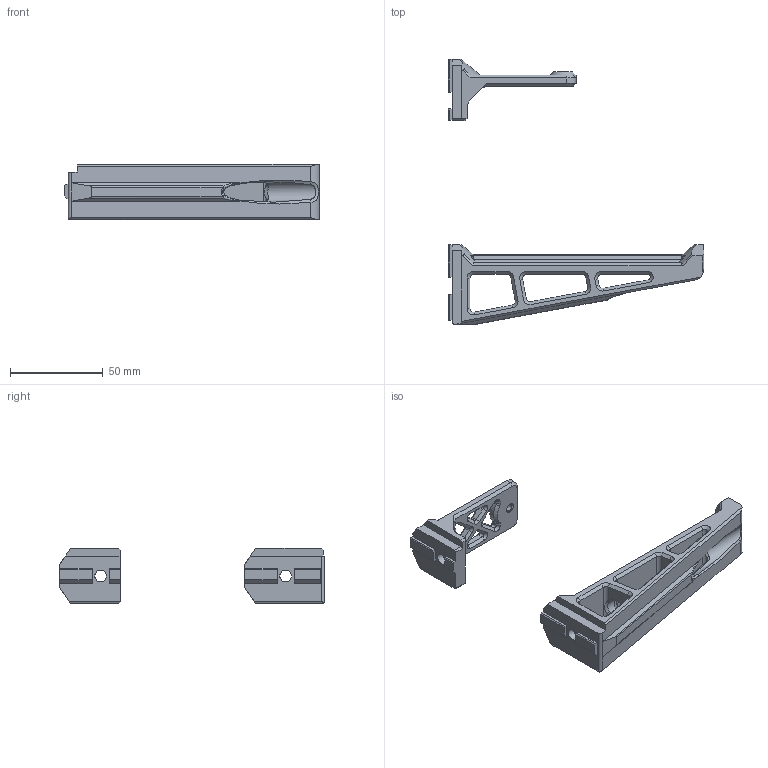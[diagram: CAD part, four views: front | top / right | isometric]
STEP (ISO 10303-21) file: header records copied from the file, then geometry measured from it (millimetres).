
FILE_DESCRIPTION(/* description */ (''),/* implementation_level */ '2;1');
FILE_NAME(/* name */ 'enclosure2_spool_holder_5mm 111mm v2.step',/* time_stamp */ '2023-05-26T00:07:37+02:00',/* author */ (''),/* organization */ (''),/* preprocessor_version */ 'ST-DEVELOPER v19.2',/* originating_system */ 'Autodesk Translation Framework v12.4.0.73',/* authorisation */ '');
FILE_SCHEMA (('AUTOMOTIVE_DESIGN { 1 0 10303 214 3 1 1 }'));
Length unit declared in the file: millimetre
Products named in the file (1): enclosure2_spool_holder_5mm 111mm
Bounding box: 138 x 143.2 x 30 mm (x, y, z)
Volume: 77020.8 mm3; surface area: 28423.8 mm2
Topology: 2 solids, 2 shells, 341 faces, 882 edges, 539 vertices
Faces by surface type: plane 163, cone 73, bspline 55, cylinder 48, sphere 2
Full cylindrical faces by diameter (mm): 4.05 x1, 4.3 x2, 6.3 x2, 11 x4
Entity records: 12552 total; most frequent: CARTESIAN_POINT 4598, ORIENTED_EDGE 1764, DIRECTION 1473, EDGE_CURVE 882, VERTEX_POINT 539, LINE 523, VECTOR 523, AXIS2_PLACEMENT_3D 475
